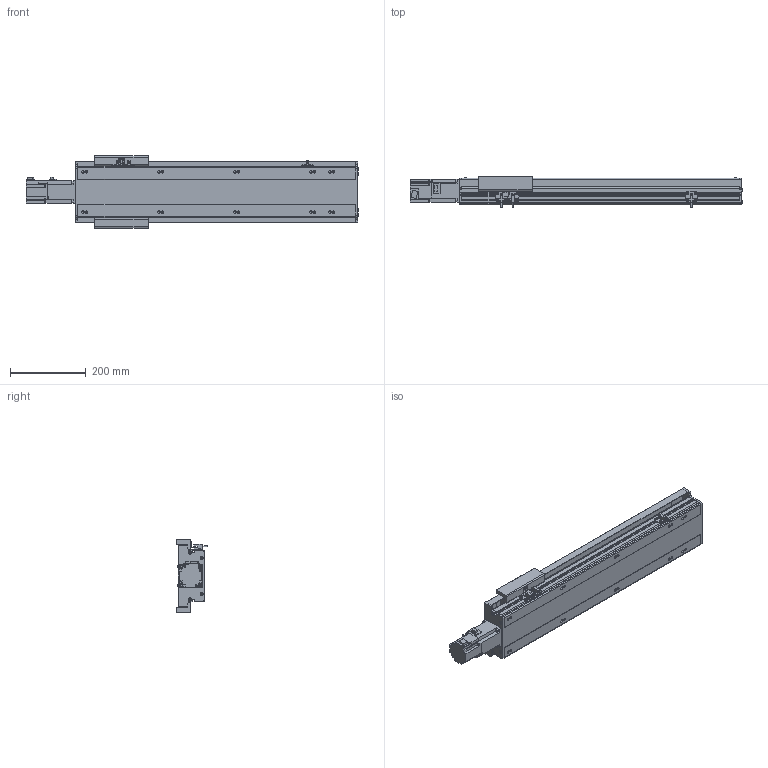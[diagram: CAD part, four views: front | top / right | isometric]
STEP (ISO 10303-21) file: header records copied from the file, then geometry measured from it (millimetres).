
FILE_DESCRIPTION(/* description */ ('STEP AP214'),/* implementation_level */ '2;1');
FILE_NAME(/* name */ 'PSM140-L10-S500-BC-T40-C1-N(0)',/* time_stamp */ '2022-06-13T03:19:21+02:00',/* author */ ('License CC BY-ND 4.0'),/* organization */ ('CADENAS'),/* preprocessor_version */ 'ST-DEVELOPER v18.102',/* originating_system */ 'PARTsolutions',/* authorisation */ ' ');
FILE_SCHEMA (('AUTOMOTIVE_DESIGN {1 0 10303 214 3 1 1}'));
Length unit declared in the file: millimetre
Products named in the file (7): PSM140-L10-S500-BC-T40-C1-N(0); PSM-Sensor; PSM140-S500-742.5; T40-p1; PSM140_body3; PSM140-S500_body1; PSM140-L10-S500-BC-T40-C1-N(0)_dummy
Assembly tree (10 placements, depth 2):
  PSM140-L10-S500-BC-T40-C1-N(0)
    PSM-Sensor  x3
    PSM140-S500-742.5  x3
    T40-p1
    PSM140_body3
    PSM140-S500_body1
    PSM140-L10-S500-BC-T40-C1-N(0)_dummy
Bounding box: 873.7 x 81.3 x 190 mm (x, y, z)
Volume: 3808375.8 mm3; surface area: 808102.4 mm2
Topology: 9 solids, 9 shells, 944 faces, 2495 edges, 1622 vertices
Faces by surface type: plane 624, cylinder 250, cone 56, torus 14
Full cylindrical faces by diameter (mm): 2.8 x3, 4.5 x12, 4.6 x3, 4.917 x18, 5.5 x7, 5.7 x6, 6 x2, 7 x18, 8 x8, 8.5 x4, 10.5 x10, 14 x1, 50 x1
Entity records: 24050 total; most frequent: CARTESIAN_POINT 4295, DIRECTION 4063, ORIENTED_EDGE 3830, EDGE_CURVE 1915, LINE 1357, VECTOR 1357, AXIS2_PLACEMENT_3D 1353, VERTEX_POINT 1340
